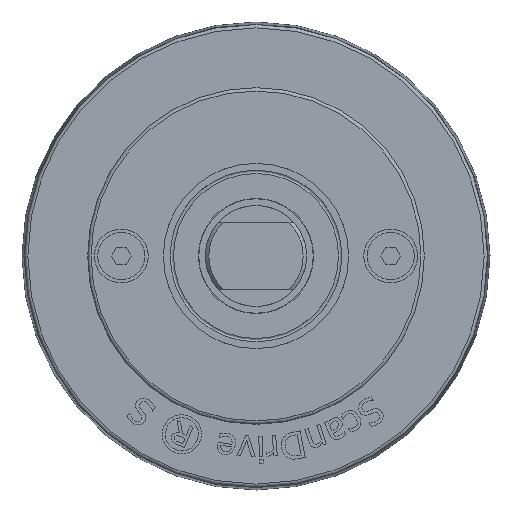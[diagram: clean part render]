
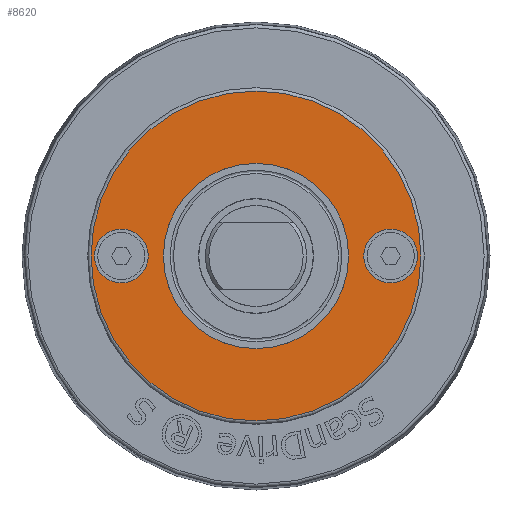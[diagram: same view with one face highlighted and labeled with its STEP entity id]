
A CAD part, left-side view. The second image highlights one B-rep face of the part: STEP entity #8620.
In plain terms, the highlighted planar face has unit normal (-1, 0, 0).
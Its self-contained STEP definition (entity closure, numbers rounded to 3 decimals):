
#734=FACE_BOUND('',#1842,.T.);
#735=FACE_BOUND('',#1843,.T.);
#736=FACE_BOUND('',#1844,.T.);
#764=CIRCLE('',#8692,8.);
#768=CIRCLE('',#8707,8.);
#800=CIRCLE('',#8969,27.5);
#801=CIRCLE('',#8971,49.);
#1294=FACE_OUTER_BOUND('',#1841,.T.);
#1841=EDGE_LOOP('',(#7823));
#1842=EDGE_LOOP('',(#7824));
#1843=EDGE_LOOP('',(#7825));
#1844=EDGE_LOOP('',(#7826));
#3436=VERTEX_POINT('',#10542);
#3452=VERTEX_POINT('',#10591);
#4228=VERTEX_POINT('',#15501);
#4229=VERTEX_POINT('',#15504);
#4274=EDGE_CURVE('',#3436,#3436,#764,.T.);
#4296=EDGE_CURVE('',#3452,#3452,#768,.T.);
#5444=EDGE_CURVE('',#4228,#4228,#800,.T.);
#5445=EDGE_CURVE('',#4229,#4229,#801,.T.);
#7823=ORIENTED_EDGE('',*,*,#5445,.T.);
#7824=ORIENTED_EDGE('',*,*,#4274,.T.);
#7825=ORIENTED_EDGE('',*,*,#4296,.T.);
#7826=ORIENTED_EDGE('',*,*,#5444,.F.);
#8154=PLANE('',#8970);
#8620=ADVANCED_FACE('',(#1294,#734,#735,#736),#8154,.T.);
#8692=AXIS2_PLACEMENT_3D('',#10543,#9077,#9078);
#8707=AXIS2_PLACEMENT_3D('',#10592,#9125,#9126);
#8969=AXIS2_PLACEMENT_3D('',#15502,#10367,#10368);
#8970=AXIS2_PLACEMENT_3D('',#15503,#10369,#10370);
#8971=AXIS2_PLACEMENT_3D('',#15505,#10371,#10372);
#9077=DIRECTION('center_axis',(1.,0.,0.));
#9078=DIRECTION('ref_axis',(0.,0.,-1.));
#9125=DIRECTION('center_axis',(1.,0.,0.));
#9126=DIRECTION('ref_axis',(0.,0.,-1.));
#10367=DIRECTION('center_axis',(-1.,0.,0.));
#10368=DIRECTION('ref_axis',(0.,0.,1.));
#10369=DIRECTION('center_axis',(-1.,0.,0.));
#10370=DIRECTION('ref_axis',(0.,0.,1.));
#10371=DIRECTION('center_axis',(-1.,0.,0.));
#10372=DIRECTION('ref_axis',(0.,0.,1.));
#10542=CARTESIAN_POINT('',(-281.5,-40.,8.));
#10543=CARTESIAN_POINT('Origin',(-281.5,-40.,0.));
#10591=CARTESIAN_POINT('',(-281.5,40.,8.));
#10592=CARTESIAN_POINT('Origin',(-281.5,40.,0.));
#15501=CARTESIAN_POINT('',(-281.5,0.,27.5));
#15502=CARTESIAN_POINT('Origin',(-281.5,0.,0.));
#15503=CARTESIAN_POINT('Origin',(-281.5,0.,27.5));
#15504=CARTESIAN_POINT('',(-281.5,0.,49.));
#15505=CARTESIAN_POINT('Origin',(-281.5,0.,0.));
